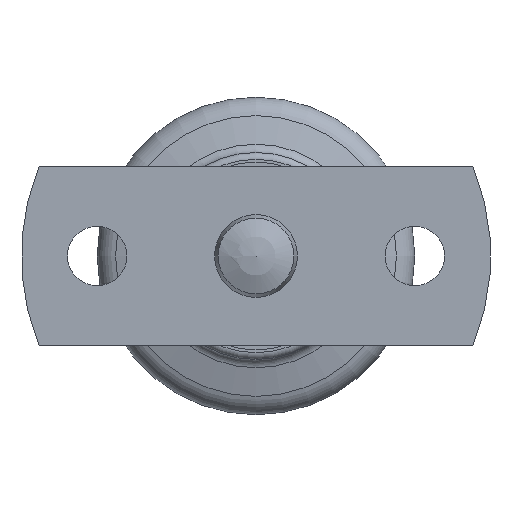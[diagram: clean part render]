
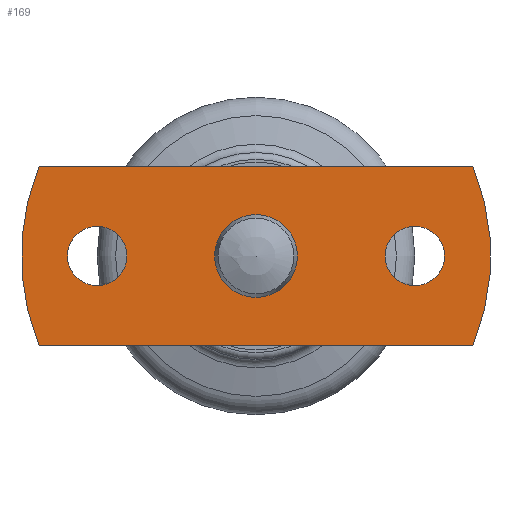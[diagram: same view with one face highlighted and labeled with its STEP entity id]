
A CAD part, front view. The second image highlights one B-rep face of the part: STEP entity #169.
In plain terms, the highlighted planar face has unit normal (0, -1, 0).
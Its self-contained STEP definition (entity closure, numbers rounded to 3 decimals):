
#169 = ADVANCED_FACE( '', ( #211, #212, #213, #214 ), #215, .F. );
#211 = FACE_BOUND( '', #330, .T. );
#212 = FACE_BOUND( '', #331, .T. );
#213 = FACE_BOUND( '', #332, .T. );
#214 = FACE_OUTER_BOUND( '', #333, .T. );
#215 = PLANE( '', #334 );
#330 = EDGE_LOOP( '', ( #448 ) );
#331 = EDGE_LOOP( '', ( #449 ) );
#332 = EDGE_LOOP( '', ( #450 ) );
#333 = EDGE_LOOP( '', ( #451, #452, #453, #454 ) );
#334 = AXIS2_PLACEMENT_3D( '', #455, #456, #457 );
#448 = ORIENTED_EDGE( '', *, *, #670, .F. );
#449 = ORIENTED_EDGE( '', *, *, #671, .T. );
#450 = ORIENTED_EDGE( '', *, *, #672, .F. );
#451 = ORIENTED_EDGE( '', *, *, #673, .F. );
#452 = ORIENTED_EDGE( '', *, *, #674, .F. );
#453 = ORIENTED_EDGE( '', *, *, #675, .F. );
#454 = ORIENTED_EDGE( '', *, *, #676, .F. );
#455 = CARTESIAN_POINT( '', ( 0., 0., 0. ) );
#456 = DIRECTION( '', ( 0., 1., 0. ) );
#457 = DIRECTION( '', ( 0., 0., 1. ) );
#670 = EDGE_CURVE( '', #722, #722, #723, .T. );
#671 = EDGE_CURVE( '', #724, #724, #725, .T. );
#672 = EDGE_CURVE( '', #726, #726, #727, .T. );
#673 = EDGE_CURVE( '', #728, #729, #730, .T. );
#674 = EDGE_CURVE( '', #731, #728, #732, .T. );
#675 = EDGE_CURVE( '', #733, #731, #734, .T. );
#676 = EDGE_CURVE( '', #729, #733, #735, .T. );
#722 = VERTEX_POINT( '', #816 );
#723 = CIRCLE( '', #817, 3. );
#724 = VERTEX_POINT( '', #818 );
#725 = CIRCLE( '', #819, 2.15 );
#726 = VERTEX_POINT( '', #820 );
#727 = CIRCLE( '', #821, 2.15 );
#728 = VERTEX_POINT( '', #822 );
#729 = VERTEX_POINT( '', #823 );
#730 = LINE( '', #824, #825 );
#731 = VERTEX_POINT( '', #826 );
#732 = CIRCLE( '', #827, 17. );
#733 = VERTEX_POINT( '', #828 );
#734 = LINE( '', #829, #830 );
#735 = CIRCLE( '', #831, 17. );
#816 = CARTESIAN_POINT( '', ( 0., 0., -3. ) );
#817 = AXIS2_PLACEMENT_3D( '', #920, #921, #922 );
#818 = CARTESIAN_POINT( '', ( -11.5, 0., 2.15 ) );
#819 = AXIS2_PLACEMENT_3D( '', #923, #924, #925 );
#820 = CARTESIAN_POINT( '', ( 11.5, 0., -2.15 ) );
#821 = AXIS2_PLACEMENT_3D( '', #926, #927, #928 );
#822 = CARTESIAN_POINT( '', ( 15.708, 0., -6.5 ) );
#823 = CARTESIAN_POINT( '', ( -15.708, 0., -6.5 ) );
#824 = CARTESIAN_POINT( '', ( 15.708, 0., -6.5 ) );
#825 = VECTOR( '', #929, 1000. );
#826 = CARTESIAN_POINT( '', ( 15.708, 0., 6.5 ) );
#827 = AXIS2_PLACEMENT_3D( '', #930, #931, #932 );
#828 = CARTESIAN_POINT( '', ( -15.708, 0., 6.5 ) );
#829 = CARTESIAN_POINT( '', ( -15.708, 0., 6.5 ) );
#830 = VECTOR( '', #933, 1000. );
#831 = AXIS2_PLACEMENT_3D( '', #934, #935, #936 );
#920 = CARTESIAN_POINT( '', ( 0., 0., 0. ) );
#921 = DIRECTION( '', ( 0., -1., 0. ) );
#922 = DIRECTION( '', ( 0., 0., -1. ) );
#923 = CARTESIAN_POINT( '', ( -11.5, 0., 0. ) );
#924 = DIRECTION( '', ( 0., 1., 0. ) );
#925 = DIRECTION( '', ( 0., 0., 1. ) );
#926 = CARTESIAN_POINT( '', ( 11.5, 0., 0. ) );
#927 = DIRECTION( '', ( 0., -1., 0. ) );
#928 = DIRECTION( '', ( 0., 0., -1. ) );
#929 = DIRECTION( '', ( -1., 0., 0. ) );
#930 = CARTESIAN_POINT( '', ( 0., 0., 0. ) );
#931 = DIRECTION( '', ( 0., 1., 0. ) );
#932 = DIRECTION( '', ( 1., 0., 0. ) );
#933 = DIRECTION( '', ( 1., 0., 0. ) );
#934 = CARTESIAN_POINT( '', ( 0., 0., 0. ) );
#935 = DIRECTION( '', ( 0., 1., 0. ) );
#936 = DIRECTION( '', ( 1., 0., 0. ) );
